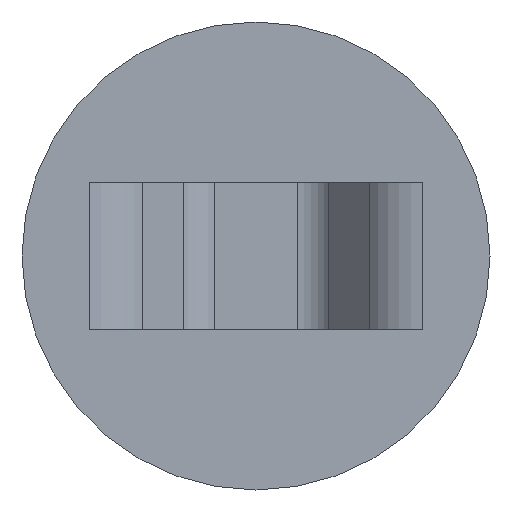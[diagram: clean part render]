
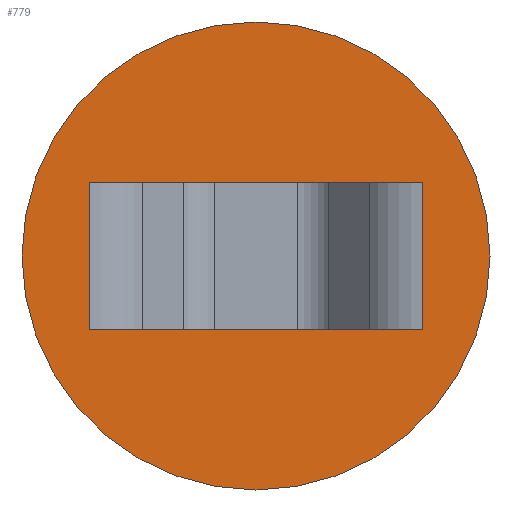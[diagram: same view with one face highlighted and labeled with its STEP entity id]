
A CAD part, front view. The second image highlights one B-rep face of the part: STEP entity #779.
In plain terms, the highlighted planar face has unit normal (0, -1, 0).
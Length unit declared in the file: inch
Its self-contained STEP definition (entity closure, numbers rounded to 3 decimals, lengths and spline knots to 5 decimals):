
#11 = DIRECTION ( 'NONE',  ( 0., 0., 1. ) ) ;
#17 = CARTESIAN_POINT ( 'NONE',  ( -0.44479, -0.074, -0.394 ) ) ;
#21 = CIRCLE ( 'NONE', #201, 0.625 ) ;
#32 = CARTESIAN_POINT ( 'NONE',  ( 0., -0.074, -0.197 ) ) ;
#34 = VECTOR ( 'NONE', #378, 39.37008 ) ;
#46 = EDGE_CURVE ( 'NONE', #114, #436, #186, .T. ) ;
#58 = CARTESIAN_POINT ( 'NONE',  ( -0.44479, -0.074, -0.394 ) ) ;
#64 = VERTEX_POINT ( 'NONE', #58 ) ;
#65 = EDGE_CURVE ( 'NONE', #664, #587, #21, .T. ) ;
#67 = CARTESIAN_POINT ( 'NONE',  ( 0., -0.074, -0.197 ) ) ;
#87 = AXIS2_PLACEMENT_3D ( 'NONE', #32, #94, #299 ) ;
#93 = LINE ( 'NONE', #780, #111 ) ;
#94 = DIRECTION ( 'NONE',  ( 0., -1., 0. ) ) ;
#101 = DIRECTION ( 'NONE',  ( 1., 0., 0. ) ) ;
#105 = ORIENTED_EDGE ( 'NONE', *, *, #191, .F. ) ;
#111 = VECTOR ( 'NONE', #101, 39.37008 ) ;
#114 = VERTEX_POINT ( 'NONE', #453 ) ;
#125 = CARTESIAN_POINT ( 'NONE',  ( 0.44479, -0.074, -0.394 ) ) ;
#138 = CARTESIAN_POINT ( 'NONE',  ( 0.44479, -0.074, -0.394 ) ) ;
#167 = EDGE_LOOP ( 'NONE', ( #721, #319 ) ) ;
#186 = LINE ( 'NONE', #556, #34 ) ;
#191 = EDGE_CURVE ( 'NONE', #454, #114, #768, .T. ) ;
#201 = AXIS2_PLACEMENT_3D ( 'NONE', #67, #308, #678 ) ;
#222 = FACE_BOUND ( 'NONE', #401, .T. ) ;
#278 = EDGE_CURVE ( 'NONE', #587, #664, #749, .T. ) ;
#284 = AXIS2_PLACEMENT_3D ( 'NONE', #470, #598, #537 ) ;
#299 = DIRECTION ( 'NONE',  ( 1., 0., 0. ) ) ;
#308 = DIRECTION ( 'NONE',  ( 0., -1., 0. ) ) ;
#319 = ORIENTED_EDGE ( 'NONE', *, *, #278, .T. ) ;
#378 = DIRECTION ( 'NONE',  ( -1., 0., 0. ) ) ;
#401 = EDGE_LOOP ( 'NONE', ( #582, #105, #628, #789 ) ) ;
#436 = VERTEX_POINT ( 'NONE', #671 ) ;
#453 = CARTESIAN_POINT ( 'NONE',  ( 0.44479, -0.074, 0. ) ) ;
#454 = VERTEX_POINT ( 'NONE', #125 ) ;
#467 = FACE_OUTER_BOUND ( 'NONE', #167, .T. ) ;
#470 = CARTESIAN_POINT ( 'NONE',  ( -0.625, -0.074, -0.394 ) ) ;
#509 = LINE ( 'NONE', #17, #562 ) ;
#513 = DIRECTION ( 'NONE',  ( 0., 0., 1. ) ) ;
#537 = DIRECTION ( 'NONE',  ( 0., 0., -1. ) ) ;
#556 = CARTESIAN_POINT ( 'NONE',  ( -0.44479, -0.074, 0. ) ) ;
#562 = VECTOR ( 'NONE', #513, 39.37008 ) ;
#582 = ORIENTED_EDGE ( 'NONE', *, *, #46, .F. ) ;
#587 = VERTEX_POINT ( 'NONE', #705 ) ;
#598 = DIRECTION ( 'NONE',  ( 0., -1., 0. ) ) ;
#628 = ORIENTED_EDGE ( 'NONE', *, *, #758, .F. ) ;
#632 = CARTESIAN_POINT ( 'NONE',  ( 0.625, -0.074, -0.197 ) ) ;
#664 = VERTEX_POINT ( 'NONE', #632 ) ;
#671 = CARTESIAN_POINT ( 'NONE',  ( -0.44479, -0.074, 0. ) ) ;
#678 = DIRECTION ( 'NONE',  ( 1., 0., 0. ) ) ;
#698 = EDGE_CURVE ( 'NONE', #64, #436, #509, .T. ) ;
#705 = CARTESIAN_POINT ( 'NONE',  ( -0.625, -0.074, -0.197 ) ) ;
#719 = PLANE ( 'NONE',  #284 ) ;
#721 = ORIENTED_EDGE ( 'NONE', *, *, #65, .T. ) ;
#749 = CIRCLE ( 'NONE', #87, 0.625 ) ;
#758 = EDGE_CURVE ( 'NONE', #64, #454, #93, .T. ) ;
#762 = VECTOR ( 'NONE', #11, 39.37008 ) ;
#768 = LINE ( 'NONE', #138, #762 ) ;
#779 = ADVANCED_FACE ( 'NONE', ( #222, #467 ), #719, .T. ) ;
#780 = CARTESIAN_POINT ( 'NONE',  ( -0.44479, -0.074, -0.394 ) ) ;
#789 = ORIENTED_EDGE ( 'NONE', *, *, #698, .T. ) ;
